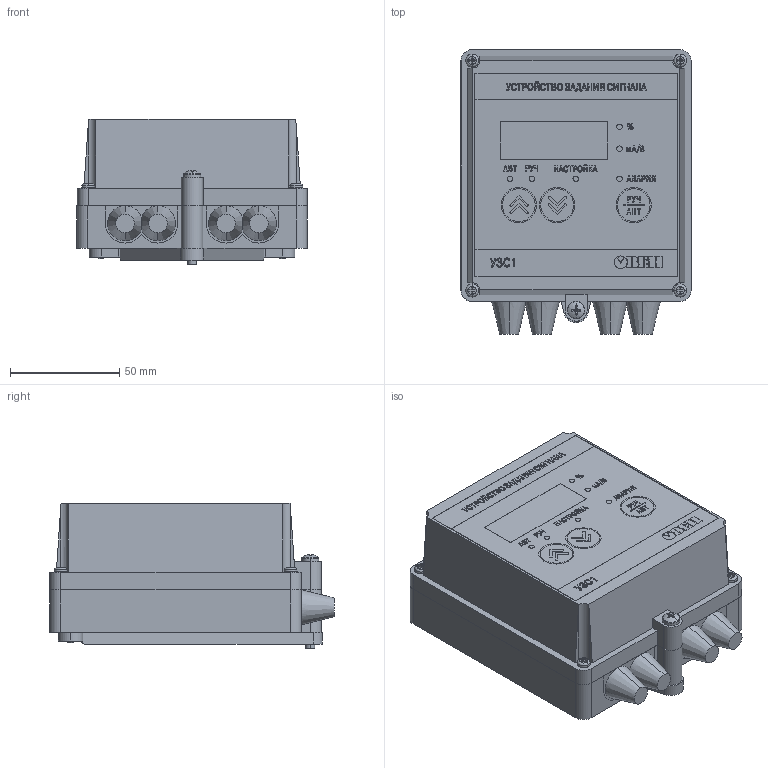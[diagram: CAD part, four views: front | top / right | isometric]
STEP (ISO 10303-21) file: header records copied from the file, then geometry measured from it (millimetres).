
FILE_DESCRIPTION (( 'STEP AP214' ), '1' );
FILE_NAME ('3D Ìîäåëü ÓÇÑ-1-Í.STEP', '2017-03-29T16:28:42', ( '' ), ( '' ), 'SwSTEP 2.0', 'SolidWorks 2014', '' );
FILE_SCHEMA (( 'AUTOMOTIVE_DESIGN' ));
Length unit declared in the file: millimetre
Products named in the file (12): Êîðïóñ Í_íèç; 扻豵鵨 狉瞂贂; 3D Ìîäåëü ÓÇÑ-1-Í; 扰鍙欙樥燲捘; Ãàéêà ÃÎÑÒ 5927_ƒ ©ª  Œ4.5.019 ƒŽ‘’ 5927; ﾊ煇鳫; Ïàíåëü ëèöåâàÿ ÓÇÑ-1-Í; 睯艜 膴樖樉; 鎔艜 襞旂 17473_M4x10; 砑鳧罻; pan cross head_am_B18.6.7M - M4 x 0.7 x 40 Type I Cross Recessed PHMS --40N; ч蜱齁膱
Assembly tree (17 placements, depth 3):
  3D Ìîäåëü ÓÇÑ-1-Í
    扻豵鵨 狉瞂贂
    Êîðïóñ Í_íèç
    ч蜱齁膱  x2
    pan cross head_am_B18.6.7M - M4 x 0.7 x 40 Type I Cross Recessed PHMS --40N
    砑鳧罻
    鎔艜 襞旂 17473_M4x10  x2
    睯艜 膴樖樉  x5
    Ïàíåëü ëèöåâàÿ ÓÇÑ-1-Í
    扰鍙欙樥燲捘
      ﾊ煇鳫
      Ãàéêà ÃÎÑÒ 5927_ƒ ©ª  Œ4.5.019 ƒŽ‘’ 5927
Bounding box: 105.15 x 130 x 66.65 mm (x, y, z)
Volume: 153470.1 mm3; surface area: 131206.3 mm2
Topology: 16 solids, 16 shells, 1822 faces, 4892 edges, 3244 vertices
Faces by surface type: plane 980, bspline 642, cylinder 142, cone 26, torus 26, sphere 6
Entity records: 72542 total; most frequent: CARTESIAN_POINT 18461, ORIENTED_EDGE 9100, DIRECTION 5651, EDGE_CURVE 4550, VERTEX_POINT 3024, LINE 2887, VECTOR 2887, EDGE_LOOP 1846
